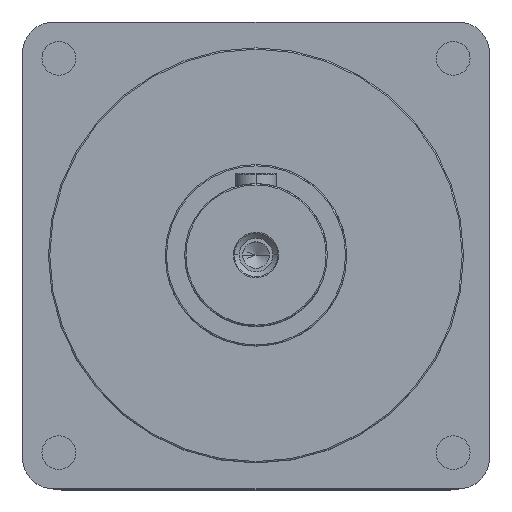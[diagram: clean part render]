
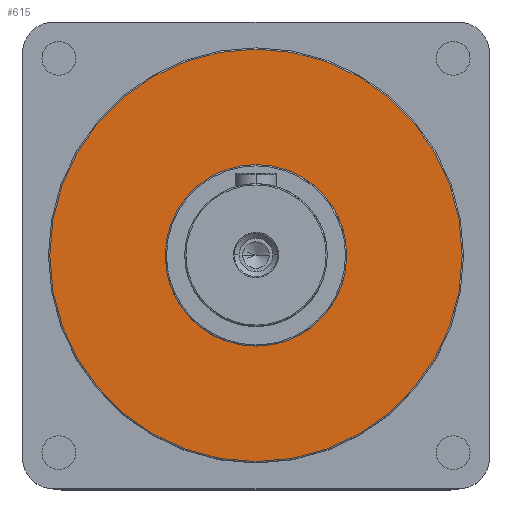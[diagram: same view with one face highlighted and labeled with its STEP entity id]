
A CAD part, top view. The second image highlights one B-rep face of the part: STEP entity #615.
In plain terms, the highlighted planar face has unit normal (0, 0, 1).
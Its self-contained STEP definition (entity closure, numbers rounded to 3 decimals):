
#615 = ADVANCED_FACE ( 'NONE', ( #22995, #8308 ), #7653, .F. ) ;
#821 = ORIENTED_EDGE ( 'NONE', *, *, #11725, .F. ) ;
#1120 = EDGE_LOOP ( 'NONE', ( #30688, #29577 ) ) ;
#2228 = ORIENTED_EDGE ( 'NONE', *, *, #2495, .F. ) ;
#2495 = EDGE_CURVE ( 'NONE', #14132, #15842, #4998, .T. ) ;
#2958 = EDGE_CURVE ( 'NONE', #15722, #14604, #23066, .T. ) ;
#3473 = EDGE_LOOP ( 'NONE', ( #2228, #821 ) ) ;
#4998 = CIRCLE ( 'NONE', #22222, 79.5 ) ;
#5605 = CARTESIAN_POINT ( 'NONE',  ( 79.5, 0., 252. ) ) ;
#7492 = CARTESIAN_POINT ( 'NONE',  ( 0., 0., 252. ) ) ;
#7653 = PLANE ( 'NONE',  #29937 ) ;
#7720 = DIRECTION ( 'NONE',  ( 0., 0., -1. ) ) ;
#7750 = DIRECTION ( 'NONE',  ( -1., 0., 0. ) ) ;
#8064 = DIRECTION ( 'NONE',  ( -1., 0., 0. ) ) ;
#8092 = DIRECTION ( 'NONE',  ( 0., 0., -1. ) ) ;
#8100 = CARTESIAN_POINT ( 'NONE',  ( 0., 0., 252. ) ) ;
#8308 = FACE_BOUND ( 'NONE', #1120, .T. ) ;
#8869 = DIRECTION ( 'NONE',  ( -1., 0., 0. ) ) ;
#8877 = DIRECTION ( 'NONE',  ( 0., 0., 1. ) ) ;
#8900 = CARTESIAN_POINT ( 'NONE',  ( 0., 0., 252. ) ) ;
#9173 = CARTESIAN_POINT ( 'NONE',  ( 35., 0., 252. ) ) ;
#11674 = EDGE_CURVE ( 'NONE', #14604, #15722, #13368, .T. ) ;
#11725 = EDGE_CURVE ( 'NONE', #15842, #14132, #12876, .T. ) ;
#12876 = CIRCLE ( 'NONE', #19996, 79.5 ) ;
#13236 = DIRECTION ( 'NONE',  ( -1., 0., 0. ) ) ;
#13242 = DIRECTION ( 'NONE',  ( 0., 0., 1. ) ) ;
#13302 = CARTESIAN_POINT ( 'NONE',  ( 0., 0., 252. ) ) ;
#13368 = CIRCLE ( 'NONE', #20253, 35. ) ;
#13683 = CARTESIAN_POINT ( 'NONE',  ( -35., 0., 252. ) ) ;
#14132 = VERTEX_POINT ( 'NONE', #29055 ) ;
#14604 = VERTEX_POINT ( 'NONE', #13683 ) ;
#15722 = VERTEX_POINT ( 'NONE', #9173 ) ;
#15842 = VERTEX_POINT ( 'NONE', #5605 ) ;
#19360 = AXIS2_PLACEMENT_3D ( 'NONE', #13302, #13242, #13236 ) ;
#19996 = AXIS2_PLACEMENT_3D ( 'NONE', #8100, #8092, #8064 ) ;
#20253 = AXIS2_PLACEMENT_3D ( 'NONE', #8900, #8877, #8869 ) ;
#21229 = DIRECTION ( 'NONE',  ( -1., 0., 0. ) ) ;
#21297 = DIRECTION ( 'NONE',  ( 0., 0., -1. ) ) ;
#21302 = CARTESIAN_POINT ( 'NONE',  ( 0., 0., 252. ) ) ;
#22222 = AXIS2_PLACEMENT_3D ( 'NONE', #21302, #21297, #21229 ) ;
#22995 = FACE_OUTER_BOUND ( 'NONE', #3473, .T. ) ;
#23066 = CIRCLE ( 'NONE', #19360, 35. ) ;
#29055 = CARTESIAN_POINT ( 'NONE',  ( -79.5, 0., 252. ) ) ;
#29577 = ORIENTED_EDGE ( 'NONE', *, *, #2958, .F. ) ;
#29937 = AXIS2_PLACEMENT_3D ( 'NONE', #7492, #7720, #7750 ) ;
#30688 = ORIENTED_EDGE ( 'NONE', *, *, #11674, .F. ) ;
